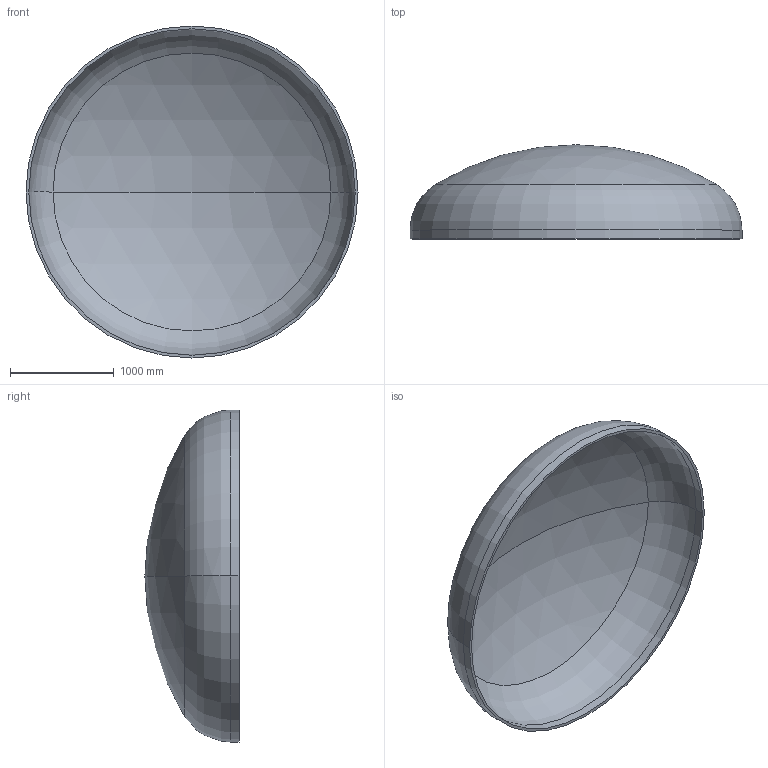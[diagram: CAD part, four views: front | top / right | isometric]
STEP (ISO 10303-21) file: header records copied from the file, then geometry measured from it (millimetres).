
FILE_DESCRIPTION (( 'STEP AP203' ), '1' );
FILE_NAME ('DIN 28013 Korbbogenform_-_Boden DIN 28013 - 3200 x 85 - I - s=27.step', '2016-07-01T18:28:21', ( '' ), ( '' ), 'SwSTEP 2.0', 'SolidWorks 2013', '' );
FILE_SCHEMA (( 'CONFIG_CONTROL_DESIGN' ));
Length unit declared in the file: millimetre
Products named in the file (1): DIN 28013 Korbbogenform_-_Boden DIN 28013 - 3200 x 85 - I - s=27
Bounding box: 3200 x 907.91 x 3200 mm (x, y, z)
Volume: 319956053.6 mm3; surface area: 23971109.7 mm2
Topology: 1 solids, 1 shells, 13 faces, 24 edges, 14 vertices
Faces by surface type: torus 4, cylinder 4, sphere 4, plane 1
Entity records: 407 total; most frequent: DIRECTION 72, CARTESIAN_POINT 52, ORIENTED_EDGE 48, AXIS2_PLACEMENT_3D 34, EDGE_CURVE 24, CIRCLE 20, VERTEX_POINT 14, EDGE_LOOP 14
